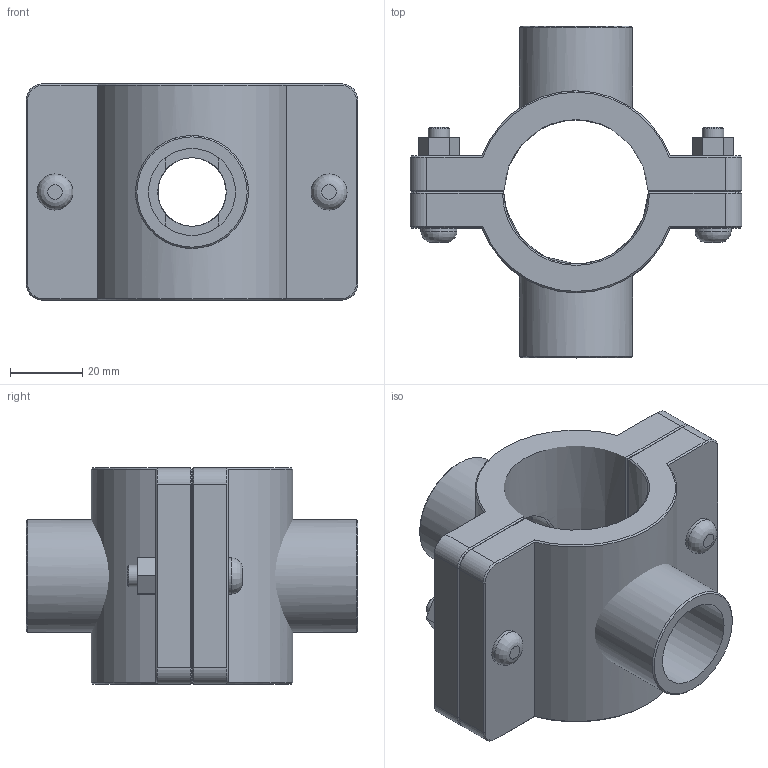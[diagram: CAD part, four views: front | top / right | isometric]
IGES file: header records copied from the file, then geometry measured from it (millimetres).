
Global section: file name: 161760040007_161860040007.ipt; native system: Autodesk Inventor 2015; preprocessor: unknown; author: KIM; date: 20170618.093649; units: millimetre
Bounding box: 92 x 92 x 60 mm (x, y, z)
Volume: 132382.2 mm3; surface area: 43581.8 mm2
Topology: 3 solids, 3 shells, 131 faces, 307 edges, 192 vertices
Faces by surface type: plane 70, cone 24, revolution 19, cylinder 18
Full cylindrical faces by diameter (mm): 6 x2, 10 x4, 31.352 x2
